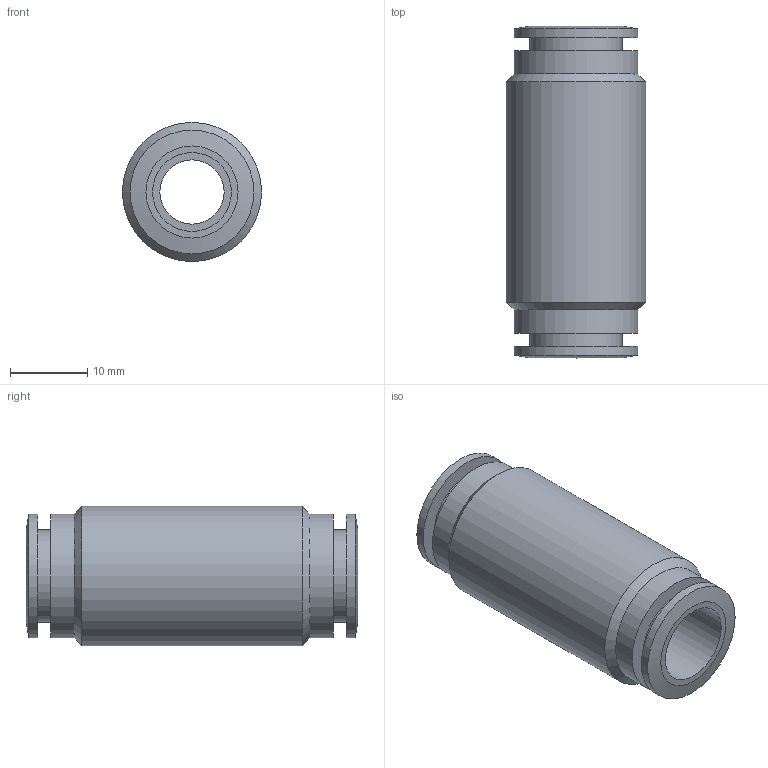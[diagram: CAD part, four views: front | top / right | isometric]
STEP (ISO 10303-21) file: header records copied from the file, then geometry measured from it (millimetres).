
FILE_DESCRIPTION((''),'2;1');
FILE_NAME('C:\Documents and Settings\rivolro1\Documenti\copia di Raccordi\PLASTICA\T10XX00\T101000.stp','2007-10-30T17:28:41',('Rivolro1'),(''),'Autodesk Inventor 2008','Autodesk Inventor 2008','');
FILE_SCHEMA(('AUTOMOTIVE_DESIGN { 1 0 10303 214 1 1 1 1 }'));
Length unit declared in the file: millimetre
Products named in the file (1): T101000
Bounding box: 18 x 42.9 x 18 mm (x, y, z)
Volume: 6484.7 mm3; surface area: 4308.3 mm2
Topology: 1 solids, 1 shells, 22 faces, 37 edges, 23 vertices
Faces by surface type: cylinder 8, plane 6, bspline 4, cone 4
Full cylindrical faces by diameter (mm): 8.3 x1, 11.9 x2, 16 x4, 18 x1
Entity records: 523 total; most frequent: CARTESIAN_POINT 107, DIRECTION 82, ORIENTED_EDGE 44, EDGE_LOOP 44, AXIS2_PLACEMENT_3D 41, VERTEX_POINT 22, CIRCLE 22, EDGE_CURVE 22
